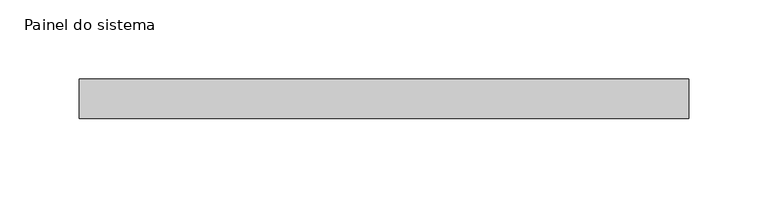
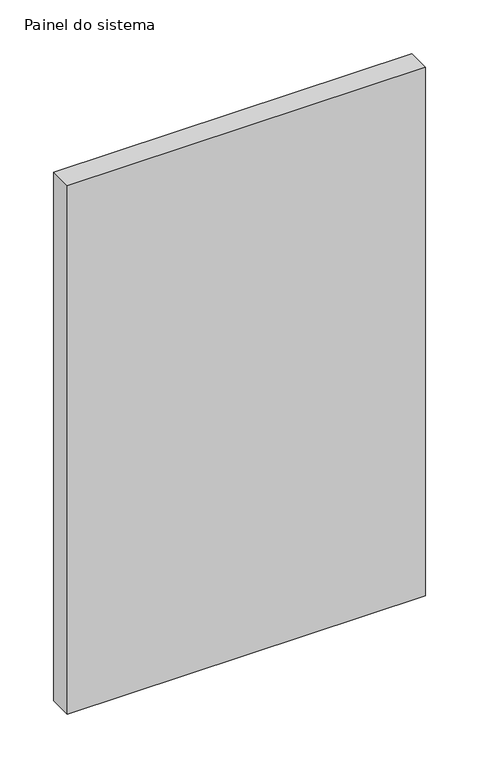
"""IFC4 building model written with IfcOpenShell, lengths in millimetres: plate geometry, Painel do sistema : Envidraçado."""

from ifc_helpers import new_model, si_unit, origin, origin_with_axes, place, context, project, spatial, polyline, outline, extrude, source, transform, mapped, element, save


def painel_do_sistema_d744273b(model_context):
    return source(origin(), model_context, "Body", "SweptSolid", [
        extrude(outline(polyline([(192.5, 24.5), (-192.5, 24.5), (-192.5, 49.5), (192.5, 49.5), (192.5, 24.5)])), origin_with_axes(), (0.0, 0.0, 1.0), 600.0),
    ])


if __name__ == "__main__":
    model = new_model("IFC4")
    model_context = context("Model", 3, world=origin())
    ifc_project = project(units=[si_unit("LENGTHUNIT", "METRE", prefix="MILLI")], contexts=[model_context])
    site = spatial("IfcSite", under=ifc_project)
    building = spatial("IfcBuilding", under=site)
    placement = place(None, origin())
    painel_do_sistema_shape = painel_do_sistema_d744273b(model_context)
    element("IfcPlate", 1, ObjectType="Painel do sistema : Envidraçado", at=placement, inside=building, context=model_context, shape_type="MappedRepresentation", body=[
        mapped(painel_do_sistema_shape, transform((0.0, 0.0, 0.0), x_axis=(1.0, 0.0, 0.0), y_axis=(0.0, 1.0, 0.0), z_axis=(0.0, 0.0, 1.0))),
    ])
    save(model, "model.ifc")
